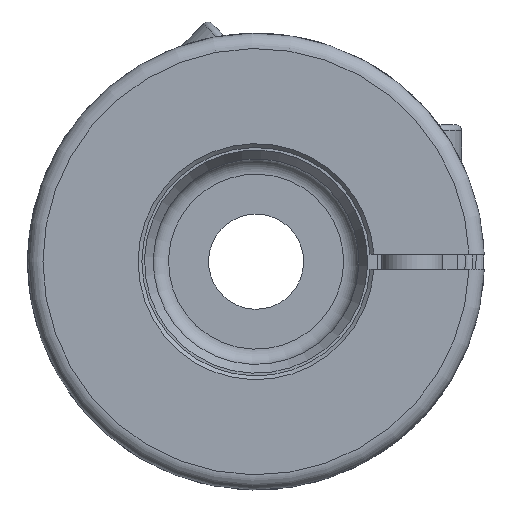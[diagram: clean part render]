
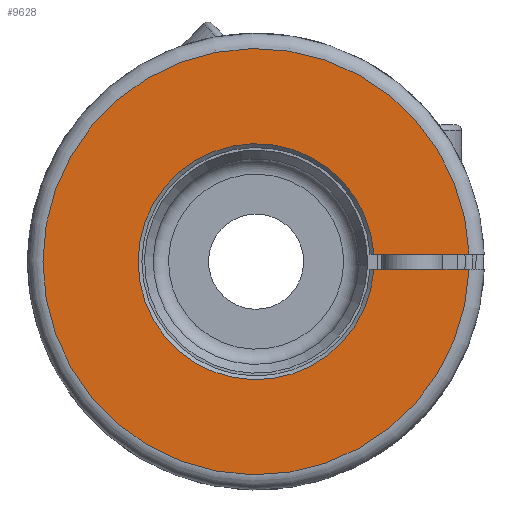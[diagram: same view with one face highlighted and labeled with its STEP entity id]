
A CAD part, left-side view. The second image highlights one B-rep face of the part: STEP entity #9628.
In plain terms, the highlighted planar face has unit normal (-1, 0, 0).
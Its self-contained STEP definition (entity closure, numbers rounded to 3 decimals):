
#26=LINE('',#12826,#437);
#77=LINE('',#13271,#488);
#437=VECTOR('',#10811,1000.);
#488=VECTOR('',#10996,1000.);
#852=PLANE('',#10127);
#1169=CIRCLE('',#9992,15.5);
#1176=CIRCLE('',#10002,28.);
#1772=ORIENTED_EDGE('',*,*,#3797,.T.);
#1773=ORIENTED_EDGE('',*,*,#3576,.F.);
#1774=ORIENTED_EDGE('',*,*,#3651,.T.);
#1775=ORIENTED_EDGE('',*,*,#3590,.T.);
#3576=EDGE_CURVE('',#4640,#4642,#1169,.T.);
#3590=EDGE_CURVE('',#4653,#4655,#1176,.T.);
#3651=EDGE_CURVE('',#4640,#4653,#26,.T.);
#3797=EDGE_CURVE('',#4655,#4642,#77,.T.);
#4640=VERTEX_POINT('',#12432);
#4642=VERTEX_POINT('',#12435);
#4653=VERTEX_POINT('',#12481);
#4655=VERTEX_POINT('',#12489);
#5777=EDGE_LOOP('',(#1772,#1773,#1774,#1775));
#6256=FACE_BOUND('',#5777,.T.);
#9628=ADVANCED_FACE('',(#6256),#852,.T.);
#9992=AXIS2_PLACEMENT_3D('',#12434,#10669,#10670);
#10002=AXIS2_PLACEMENT_3D('',#12490,#10689,#10690);
#10127=AXIS2_PLACEMENT_3D('',#13270,#10994,#10995);
#10669=DIRECTION('',(-1.,0.,0.));
#10670=DIRECTION('',(0.,0.,1.));
#10689=DIRECTION('',(-1.,0.,0.));
#10690=DIRECTION('',(0.,0.,1.));
#10811=DIRECTION('',(0.,-1.,0.));
#10994=DIRECTION('',(-1.,0.,0.));
#10995=DIRECTION('',(0.,0.,1.));
#10996=DIRECTION('',(0.,1.,0.));
#12432=CARTESIAN_POINT('',(0.,-15.468,1.));
#12434=CARTESIAN_POINT('',(0.,0.,0.));
#12435=CARTESIAN_POINT('',(0.,-15.468,-1.));
#12481=CARTESIAN_POINT('',(0.,-27.982,1.));
#12489=CARTESIAN_POINT('',(0.,-27.982,-1.));
#12490=CARTESIAN_POINT('',(0.,0.,0.));
#12826=CARTESIAN_POINT('',(0.,-14.967,1.));
#13270=CARTESIAN_POINT('',(0.,0.,15.));
#13271=CARTESIAN_POINT('',(0.,-29.983,-1.));
